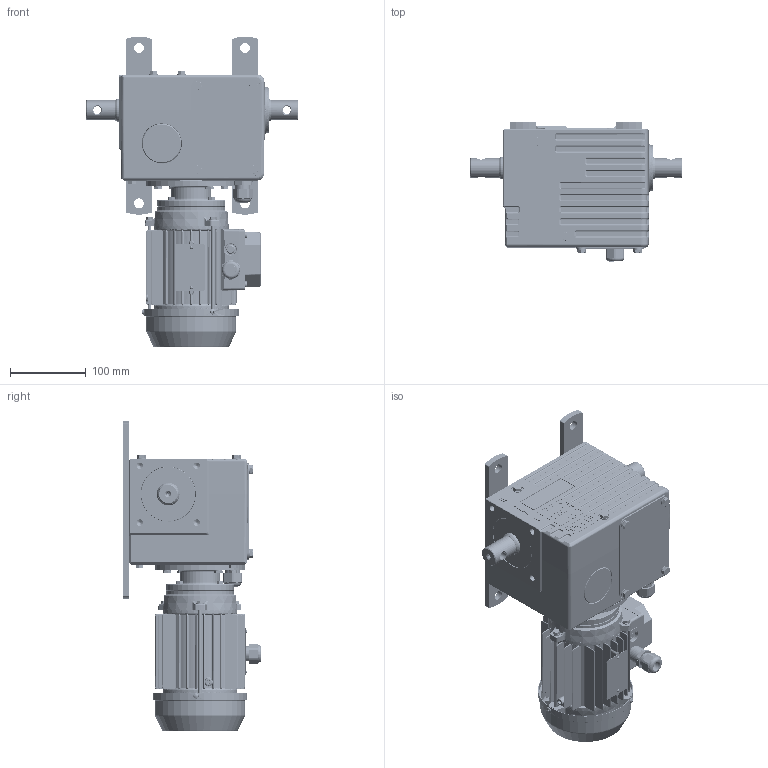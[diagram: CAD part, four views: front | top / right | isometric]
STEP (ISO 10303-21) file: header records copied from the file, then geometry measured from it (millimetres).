
FILE_DESCRIPTION (( 'STEP AP214' ), '1' );
FILE_NAME ('010203194_EWA_12_3D__DE.STEP', '2021-01-27T08:44:31', ( '' ), ( '' ), 'SwSTEP 2.0', 'SolidWorks 2020', '' );
FILE_SCHEMA (( 'AUTOMOTIVE_DESIGN' ));
Length unit declared in the file: millimetre
Products named in the file (25): 010200559_EWA_12_3D__DE_ohne Inhalt; Schraube_10002078; Elektroteil_10028709; Elektroteil_10001640; 010194287_EWA_12_3D-Modell_DE_10194287; Deckel_10000048; 010202442_EWA_12_3D__DE_Ohne Inhalt; Schraube_10018291; 010200597_Normteil_Kaufteil_3D__DE_DIN EN 24017 - M5 x 16-N; 010201148_EWA_14_3D__DE; 010202066_EWA_3D__DE; 010203194_EWA_12_3D__DE; 010191515_Normteil_Kaufteil_3D-Modell_DE_10191515; 010200560_EWA_12_3D__DE; 010201152_Normteil_Kaufteil_3D__DE_DIN 7991 - M10 x 18 --- 10N; 010192906_EWA_12_3D-Modell_DE_10192906_END 20-90000.0002.6584 m.SB-WH60; Kennzeichnung_10001854; Scheibe_10002061; Dichtelement_10005476; Dichtelement_10001203; 010197604_EWA_3D-Modell_DE_10197604; Elektroteil_10001639; Wälzlager_10001868; Dichtelement_10032469; Schraube_10014320
Assembly tree (47 placements, depth 3):
  010203194_EWA_12_3D__DE
    010202442_EWA_12_3D__DE_Ohne Inhalt
      010192906_EWA_12_3D-Modell_DE_10192906_END 20-90000.0002.6584 m.SB-WH60
      010201148_EWA_14_3D__DE  x2
      010201152_Normteil_Kaufteil_3D__DE_DIN 7991 - M10 x 18 --- 10N  x4
      Dichtelement_10005476
      Dichtelement_10032469
      Elektroteil_10001639
      Elektroteil_10001640
      Dichtelement_10001203
      Elektroteil_10028709
      Deckel_10000048
      Scheibe_10002061  x8
      010191515_Normteil_Kaufteil_3D-Modell_DE_10191515  x4
      Wälzlager_10001868
      Schraube_10018291  x4
      010194287_EWA_12_3D-Modell_DE_10194287
    Schraube_10014320
    010200559_EWA_12_3D__DE_ohne Inhalt
      010200560_EWA_12_3D__DE
      010197604_EWA_3D-Modell_DE_10197604
      010200597_Normteil_Kaufteil_3D__DE_DIN EN 24017 - M5 x 16-N  x4
    Schraube_10002078  x4
    Kennzeichnung_10001854
    010202066_EWA_3D__DE
Bounding box: 280 x 182.88 x 410 mm (x, y, z)
Volume: 1996877.2 mm3; surface area: 858134.7 mm2
Topology: 91 solids, 93 shells, 7871 faces, 20089 edges, 12576 vertices
Faces by surface type: plane 2978, bspline 1780, cylinder 1562, cone 786, torus 601, sphere 164
Entity records: 475153 total; most frequent: CARTESIAN_POINT 252575, ORIENTED_EDGE 37706, DIRECTION 28888, EDGE_CURVE 18853, VERTEX_POINT 11941, AXIS2_PLACEMENT_3D 9928, LINE 9032, VECTOR 9032
